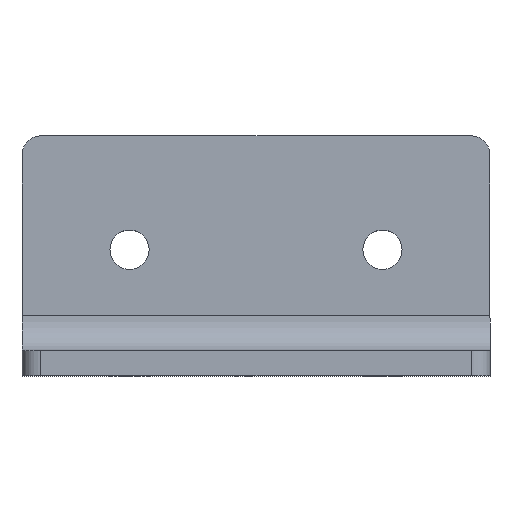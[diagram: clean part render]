
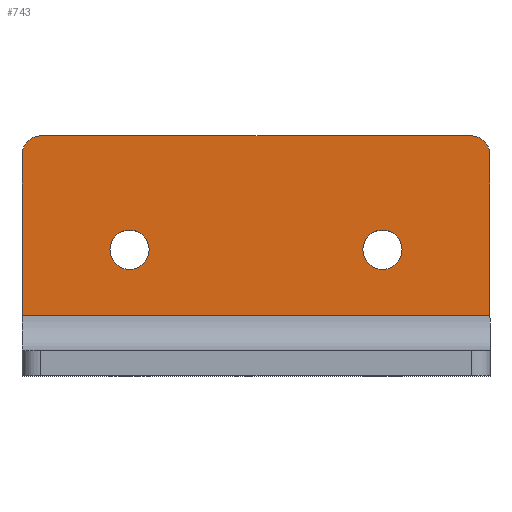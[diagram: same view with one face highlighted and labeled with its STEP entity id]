
A CAD part, top view. The second image highlights one B-rep face of the part: STEP entity #743.
In plain terms, the highlighted planar face has unit normal (0, 0, 1).
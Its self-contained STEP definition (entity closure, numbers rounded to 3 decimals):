
#4 = ORIENTED_EDGE ( 'NONE', *, *, #177, .F. ) ;
#7 = CARTESIAN_POINT ( 'NONE',  ( 0.783, 5.197, 4. ) ) ;
#11 = PLANE ( 'NONE',  #79 ) ;
#20 = VECTOR ( 'NONE', #159, 1000. ) ;
#22 = ORIENTED_EDGE ( 'NONE', *, *, #483, .T. ) ;
#29 = LINE ( 'NONE', #146, #211 ) ;
#43 = DIRECTION ( 'NONE',  ( -1., 0., 0. ) ) ;
#46 = LINE ( 'NONE', #748, #498 ) ;
#51 = VERTEX_POINT ( 'NONE', #244 ) ;
#58 = FACE_BOUND ( 'NONE', #610, .T. ) ;
#67 = AXIS2_PLACEMENT_3D ( 'NONE', #262, #130, #591 ) ;
#79 = AXIS2_PLACEMENT_3D ( 'NONE', #783, #714, #779 ) ;
#103 = DIRECTION ( 'NONE',  ( 0., 1., 0. ) ) ;
#107 = ORIENTED_EDGE ( 'NONE', *, *, #135, .F. ) ;
#124 = AXIS2_PLACEMENT_3D ( 'NONE', #400, #332, #788 ) ;
#130 = DIRECTION ( 'NONE',  ( 0., 0., 1. ) ) ;
#135 = EDGE_CURVE ( 'NONE', #143, #264, #354, .T. ) ;
#139 = CARTESIAN_POINT ( 'NONE',  ( 54.783, 20.197, 4. ) ) ;
#141 = EDGE_LOOP ( 'NONE', ( #491, #308, #22, #268, #337, #378 ) ) ;
#143 = VERTEX_POINT ( 'NONE', #266 ) ;
#146 = CARTESIAN_POINT ( 'NONE',  ( -16.217, 23.197, 4. ) ) ;
#159 = DIRECTION ( 'NONE',  ( 1., 0., 0. ) ) ;
#163 = CARTESIAN_POINT ( 'NONE',  ( 37.683, 5.197, 4. ) ) ;
#170 = EDGE_LOOP ( 'NONE', ( #107, #369 ) ) ;
#175 = EDGE_CURVE ( 'NONE', #51, #737, #681, .T. ) ;
#177 = EDGE_CURVE ( 'NONE', #279, #377, #429, .T. ) ;
#182 = CARTESIAN_POINT ( 'NONE',  ( -16.217, -5.243, 4. ) ) ;
#184 = LINE ( 'NONE', #237, #20 ) ;
#207 = EDGE_CURVE ( 'NONE', #264, #143, #752, .T. ) ;
#211 = VECTOR ( 'NONE', #535, 1000. ) ;
#228 = EDGE_CURVE ( 'NONE', #767, #306, #232, .T. ) ;
#232 = CIRCLE ( 'NONE', #67, 3. ) ;
#237 = CARTESIAN_POINT ( 'NONE',  ( 0., -5.243, 4. ) ) ;
#244 = CARTESIAN_POINT ( 'NONE',  ( 57.783, 20.197, 4. ) ) ;
#262 = CARTESIAN_POINT ( 'NONE',  ( -13.217, 20.197, 4. ) ) ;
#264 = VERTEX_POINT ( 'NONE', #321 ) ;
#266 = CARTESIAN_POINT ( 'NONE',  ( 3.883, 5.197, 4. ) ) ;
#268 = ORIENTED_EDGE ( 'NONE', *, *, #175, .T. ) ;
#270 = DIRECTION ( 'NONE',  ( 1., 0., 0. ) ) ;
#279 = VERTEX_POINT ( 'NONE', #163 ) ;
#291 = VERTEX_POINT ( 'NONE', #567 ) ;
#299 = AXIS2_PLACEMENT_3D ( 'NONE', #139, #600, #706 ) ;
#306 = VERTEX_POINT ( 'NONE', #659 ) ;
#308 = ORIENTED_EDGE ( 'NONE', *, *, #630, .T. ) ;
#321 = CARTESIAN_POINT ( 'NONE',  ( -2.317, 5.197, 4. ) ) ;
#332 = DIRECTION ( 'NONE',  ( 0., 0., 1. ) ) ;
#337 = ORIENTED_EDGE ( 'NONE', *, *, #511, .T. ) ;
#338 = DIRECTION ( 'NONE',  ( 0., 0., 1. ) ) ;
#341 = CARTESIAN_POINT ( 'NONE',  ( 40.783, 5.197, 4. ) ) ;
#350 = AXIS2_PLACEMENT_3D ( 'NONE', #7, #390, #775 ) ;
#354 = CIRCLE ( 'NONE', #124, 3.1 ) ;
#369 = ORIENTED_EDGE ( 'NONE', *, *, #207, .F. ) ;
#377 = VERTEX_POINT ( 'NONE', #548 ) ;
#378 = ORIENTED_EDGE ( 'NONE', *, *, #228, .T. ) ;
#390 = DIRECTION ( 'NONE',  ( 0., 0., 1. ) ) ;
#394 = CARTESIAN_POINT ( 'NONE',  ( -13.217, 23.197, 4. ) ) ;
#400 = CARTESIAN_POINT ( 'NONE',  ( 0.783, 5.197, 4. ) ) ;
#429 = CIRCLE ( 'NONE', #809, 3.1 ) ;
#461 = DIRECTION ( 'NONE',  ( 0., 0., 1. ) ) ;
#462 = CARTESIAN_POINT ( 'NONE',  ( 40.783, 5.197, 4. ) ) ;
#483 = EDGE_CURVE ( 'NONE', #291, #51, #46, .T. ) ;
#484 = DIRECTION ( 'NONE',  ( 1., 0., 0. ) ) ;
#491 = ORIENTED_EDGE ( 'NONE', *, *, #514, .T. ) ;
#498 = VECTOR ( 'NONE', #103, 1000. ) ;
#511 = EDGE_CURVE ( 'NONE', #737, #767, #713, .T. ) ;
#514 = EDGE_CURVE ( 'NONE', #306, #810, #29, .T. ) ;
#535 = DIRECTION ( 'NONE',  ( 0., -1., 0. ) ) ;
#548 = CARTESIAN_POINT ( 'NONE',  ( 43.883, 5.197, 4. ) ) ;
#562 = VECTOR ( 'NONE', #43, 1000. ) ;
#567 = CARTESIAN_POINT ( 'NONE',  ( 57.783, -5.243, 4. ) ) ;
#591 = DIRECTION ( 'NONE',  ( 1., 0., 0. ) ) ;
#600 = DIRECTION ( 'NONE',  ( 0., 0., 1. ) ) ;
#610 = EDGE_LOOP ( 'NONE', ( #774, #4 ) ) ;
#616 = FACE_OUTER_BOUND ( 'NONE', #141, .T. ) ;
#630 = EDGE_CURVE ( 'NONE', #810, #291, #184, .T. ) ;
#645 = EDGE_CURVE ( 'NONE', #377, #279, #683, .T. ) ;
#659 = CARTESIAN_POINT ( 'NONE',  ( -16.217, 20.197, 4. ) ) ;
#670 = AXIS2_PLACEMENT_3D ( 'NONE', #341, #461, #270 ) ;
#681 = CIRCLE ( 'NONE', #299, 3. ) ;
#683 = CIRCLE ( 'NONE', #670, 3.1 ) ;
#706 = DIRECTION ( 'NONE',  ( 1., 0., 0. ) ) ;
#713 = LINE ( 'NONE', #728, #562 ) ;
#714 = DIRECTION ( 'NONE',  ( 0., 0., 1. ) ) ;
#728 = CARTESIAN_POINT ( 'NONE',  ( -16.217, 23.197, 4. ) ) ;
#735 = CARTESIAN_POINT ( 'NONE',  ( 54.783, 23.197, 4. ) ) ;
#737 = VERTEX_POINT ( 'NONE', #735 ) ;
#743 = ADVANCED_FACE ( 'NONE', ( #616, #808, #58 ), #11, .T. ) ;
#748 = CARTESIAN_POINT ( 'NONE',  ( 57.783, 23.197, 4. ) ) ;
#752 = CIRCLE ( 'NONE', #350, 3.1 ) ;
#767 = VERTEX_POINT ( 'NONE', #394 ) ;
#774 = ORIENTED_EDGE ( 'NONE', *, *, #645, .F. ) ;
#775 = DIRECTION ( 'NONE',  ( 1., 0., 0. ) ) ;
#779 = DIRECTION ( 'NONE',  ( 1., 0., 0. ) ) ;
#783 = CARTESIAN_POINT ( 'NONE',  ( 0., 0., 4. ) ) ;
#788 = DIRECTION ( 'NONE',  ( 1., 0., 0. ) ) ;
#808 = FACE_BOUND ( 'NONE', #170, .T. ) ;
#809 = AXIS2_PLACEMENT_3D ( 'NONE', #462, #338, #484 ) ;
#810 = VERTEX_POINT ( 'NONE', #182 ) ;
